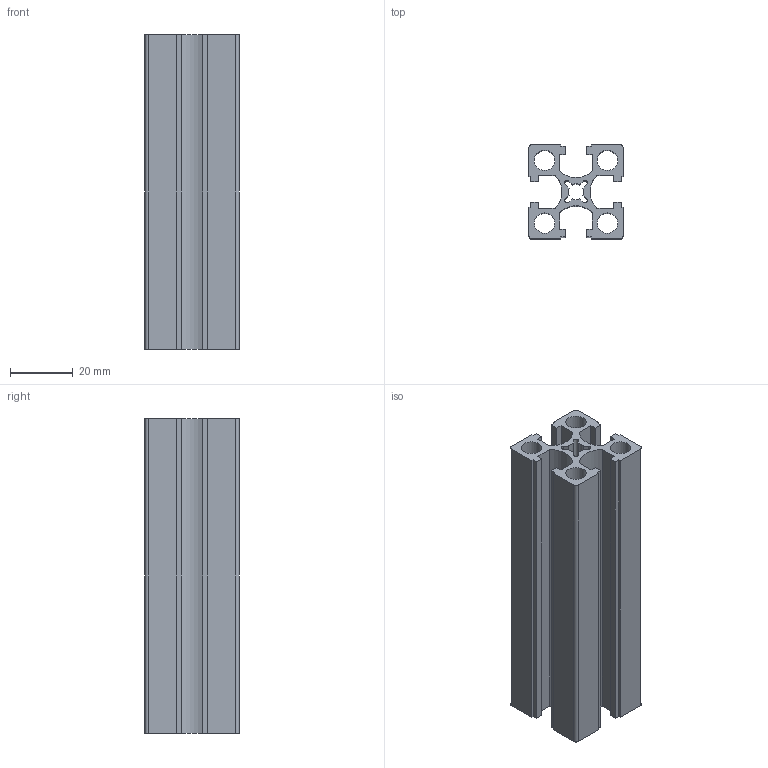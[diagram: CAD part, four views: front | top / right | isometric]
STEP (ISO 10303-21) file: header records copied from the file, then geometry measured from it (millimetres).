
FILE_DESCRIPTION(/* description */ (''),/* implementation_level */ '2;1');
FILE_NAME(/* name */ 'C:\Users\Owner\Documents\硯聰\Inv材料庫-3D新型錄\AM-(鋁擠)\6系列\AM6-3030_100L.stp',/* time_stamp */ '2019-02-21T14:26:02+08:00',/* author */ ('Owner'),/* organization */ (''),/* preprocessor_version */ 'ST-DEVELOPER v16.1',/* originating_system */ 'Autodesk Inventor 2016',/* authorisation */ '');
FILE_SCHEMA (('AUTOMOTIVE_DESIGN { 1 0 10303 214 3 1 1 }'));
Length unit declared in the file: millimetre
Products named in the file (1): AM6-3030_100L
Bounding box: 30 x 30 x 100 mm (x, y, z)
Volume: 35923 mm3; surface area: 34088.2 mm2
Topology: 1 solids, 1 shells, 78 faces, 228 edges, 152 vertices
Faces by surface type: plane 58, cylinder 20
Full cylindrical faces by diameter (mm): 6.5 x4
Entity records: 2596 total; most frequent: CARTESIAN_POINT 455, ORIENTED_EDGE 448, DIRECTION 422, EDGE_CURVE 224, LINE 184, VECTOR 184, VERTEX_POINT 152, AXIS2_PLACEMENT_3D 119
